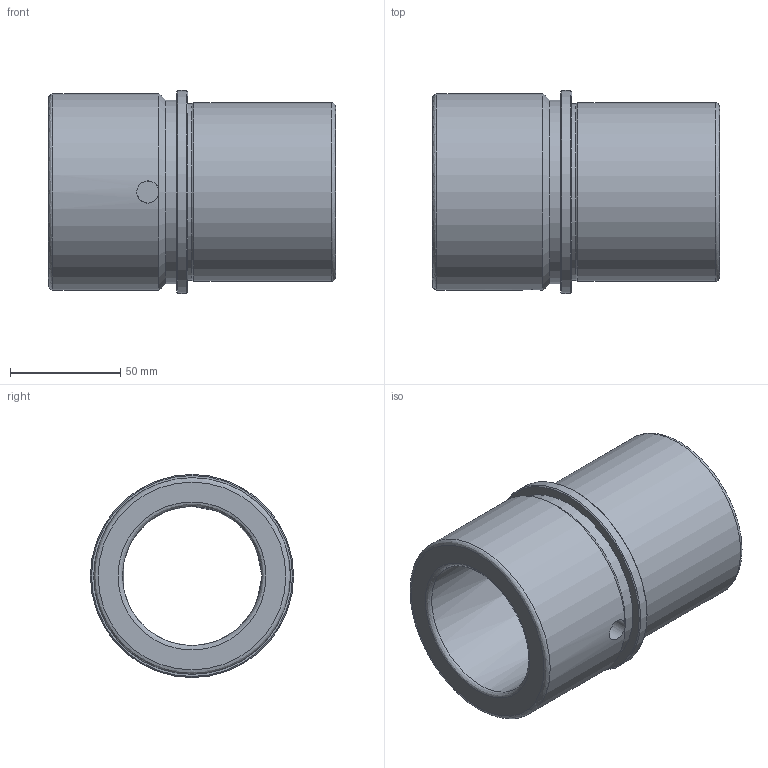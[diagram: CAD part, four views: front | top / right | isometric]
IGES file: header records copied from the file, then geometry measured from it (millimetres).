
Global section: file name: BBE63XL.ipt; native system: Autodesk Inventor 2021; preprocessor: unknown; author: SM; date: 20211217.142741; units: millimetre
Bounding box: 130 x 92 x 92 mm (x, y, z)
Volume: 326592.9 mm3; surface area: 67959 mm2
Topology: 1 solids, 1 shells, 19 faces, 50 edges, 33 vertices
Faces by surface type: revolution 6, cylinder 5, plane 4, cone 4
Full cylindrical faces by diameter (mm): 80 x1, 81 x1, 83 x1, 89 x1, 92 x1
